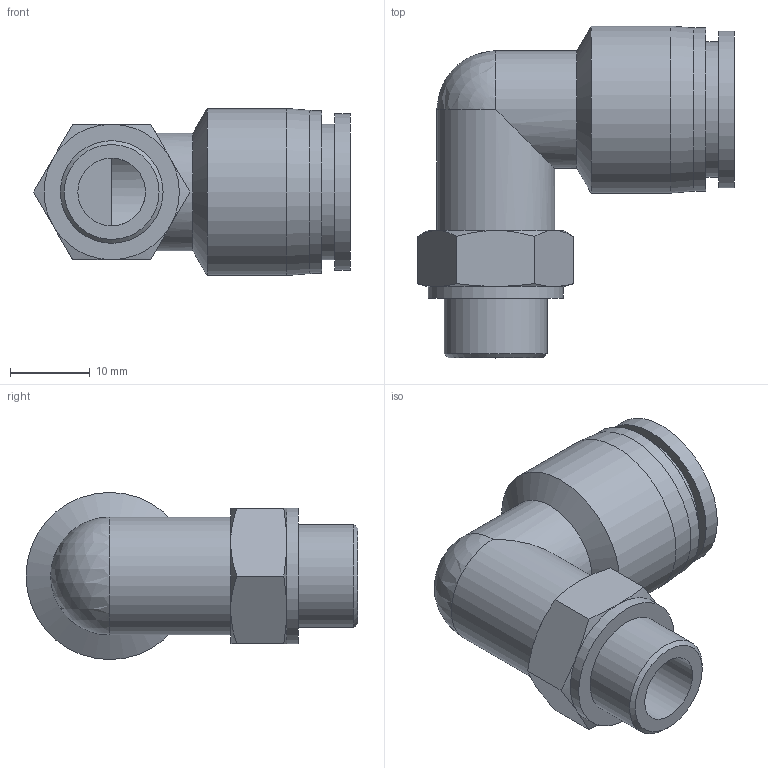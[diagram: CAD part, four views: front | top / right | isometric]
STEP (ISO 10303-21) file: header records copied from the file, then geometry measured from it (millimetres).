
FILE_DESCRIPTION(/* description */ (''),/* implementation_level */ '2;1');
FILE_NAME(/* name */ 'S:\UTecnico\ArchivioUT\Speciali Clienti\Speciali KONFIT\DISEGNI 3D\RP\RP 72\RP721412.stp',/* time_stamp */ '2015-01-28T18:21:52+01:00',/* author */ ('UT5'),/* organization */ (''),/* preprocessor_version */ 'ST-DEVELOPER v15.2',/* originating_system */ 'Autodesk Inventor 2014',/* authorisation */ '');
FILE_SCHEMA (('AUTOMOTIVE_DESIGN { 1 0 10303 214 3 1 1 }'));
Length unit declared in the file: millimetre
Products named in the file (1): RP721412
Bounding box: 39.81 x 41.7 x 21 mm (x, y, z)
Volume: 8643.3 mm3; surface area: 5867.6 mm2
Topology: 1 solids, 1 shells, 40 faces, 86 edges, 50 vertices
Faces by surface type: cone 15, plane 14, cylinder 10, sphere 1
Full cylindrical faces by diameter (mm): 8.5 x1, 12 x1, 12.9 x1, 14.8 x2, 17 x2, 19.7 x1, 20.5 x1, 21 x1
Entity records: 989 total; most frequent: CARTESIAN_POINT 219, DIRECTION 157, ORIENTED_EDGE 134, AXIS2_PLACEMENT_3D 74, EDGE_CURVE 67, EDGE_LOOP 59, VERTEX_POINT 46, ADVANCED_FACE 40
